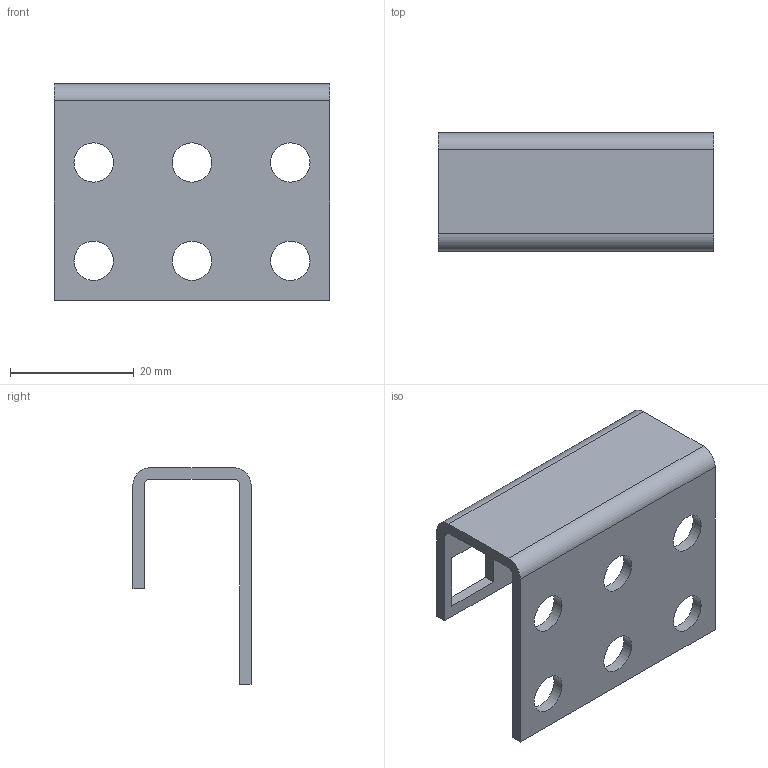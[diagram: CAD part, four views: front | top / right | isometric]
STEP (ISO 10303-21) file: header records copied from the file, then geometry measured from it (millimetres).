
FILE_DESCRIPTION( ( 'Unknown' ), '1' );
FILE_NAME( 'Q:/ACCESSORIES/VARIOUS/WEB DRAWINGS/STEP/CPRSA.stp', 'Unknown', ( 'Unknown' ), ( 'Unknown' ), 'PSStep 10.1', 'Unknown', ' ' );
FILE_SCHEMA( ( 'AUTOMOTIVE_DESIGN { 1 0 10303 214 1 1 1 1 }' ) );
Length unit declared in the file: millimetre
Products named in the file (1): 1
Bounding box: 44.45 x 19.05 x 34.92 mm (x, y, z)
Volume: 4707.3 mm3; surface area: 5988.3 mm2
Topology: 1 solids, 1 shells, 32 faces, 96 edges, 66 vertices
Faces by surface type: plane 22, cylinder 10
Full cylindrical faces by diameter (mm): 6.35 x6
Entity records: 1055 total; most frequent: CARTESIAN_POINT 177, DIRECTION 170, ORIENTED_EDGE 168, EDGE_CURVE 84, LINE 64, VECTOR 64, VERTEX_POINT 60, EDGE_LOOP 56
